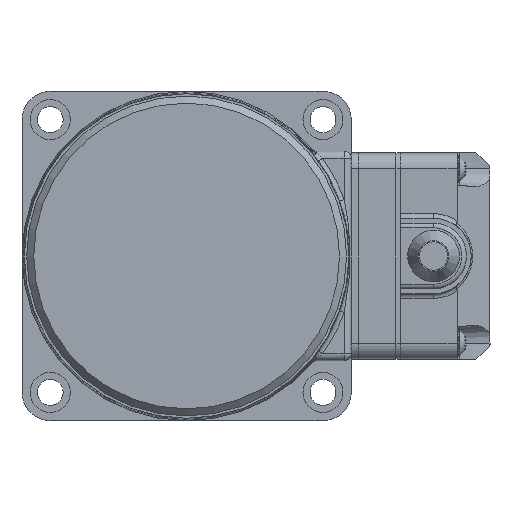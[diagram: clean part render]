
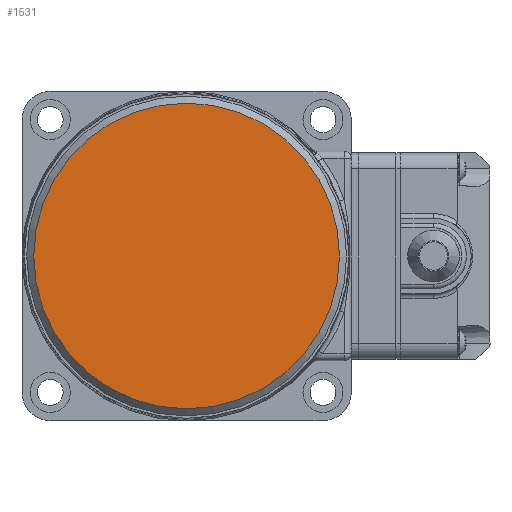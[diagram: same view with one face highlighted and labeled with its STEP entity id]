
A CAD part, left-side view. The second image highlights one B-rep face of the part: STEP entity #1531.
In plain terms, the highlighted planar face has unit normal (-1, 0, 0).
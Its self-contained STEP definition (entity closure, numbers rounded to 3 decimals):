
#1515=CARTESIAN_POINT('',(0.0,16.25,0.0));
#1516=DIRECTION('',(-1.0,0.0,0.0));
#1517=DIRECTION('',(0.0,0.0,1.0));
#1518=AXIS2_PLACEMENT_3D('',#1515,#1516,#1517);
#1519=PLANE('',#1518);
#1520=CARTESIAN_POINT('',(0.0,32.5,0.0));
#1521=VERTEX_POINT('',#1520);
#1522=CARTESIAN_POINT('',(0.,0.,0.0));
#1523=DIRECTION('',(1.0,0.0,0.0));
#1524=DIRECTION('',(0.0,1.0,0.0));
#1525=AXIS2_PLACEMENT_3D('',#1522,#1523,#1524);
#1526=CIRCLE('',#1525,32.5);
#1527=EDGE_CURVE('',#1521,#1521,#1526,.T.);
#1528=ORIENTED_EDGE('',*,*,#1527,.F.);
#1529=EDGE_LOOP('',(#1528));
#1530=FACE_OUTER_BOUND('',#1529,.T.);
#1531=ADVANCED_FACE('',(#1530),#1519,.T.);
